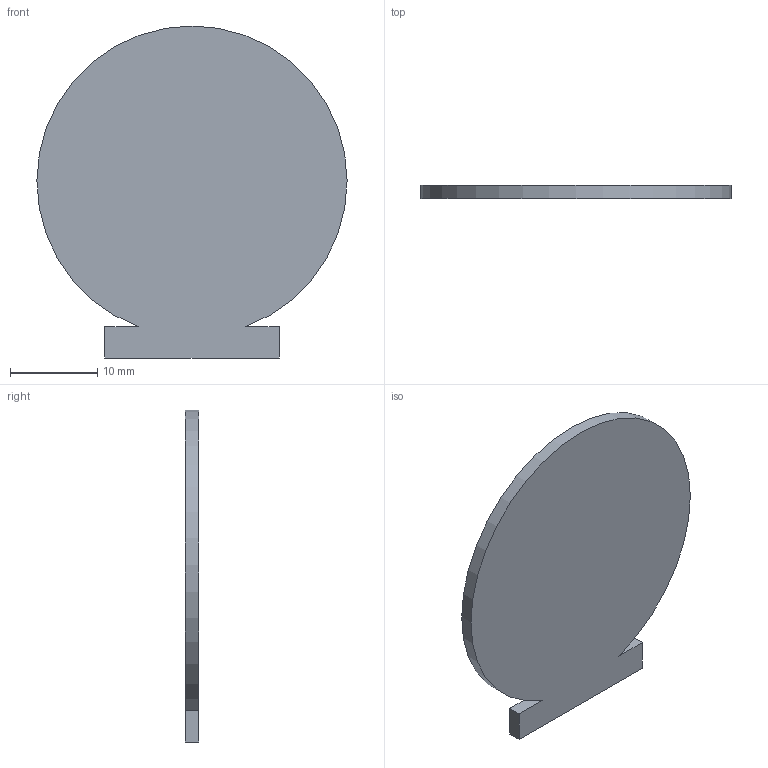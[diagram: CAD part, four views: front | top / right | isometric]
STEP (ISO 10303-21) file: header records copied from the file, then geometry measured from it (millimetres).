
FILE_DESCRIPTION(('Open CASCADE Model'),'2;1');
FILE_NAME('Open CASCADE Shape Model','2026-10-01T12:35:22',('Author'),( 'Open CASCADE'),'Open CASCADE STEP processor 7.8','Open CASCADE 7.8' ,'Unknown');
FILE_SCHEMA(('AUTOMOTIVE_DESIGN { 1 0 10303 214 1 1 1 1 }'));
Length unit declared in the file: millimetre
Products named in the file (2): E02_LCD_panel_reference; E02_LCD_panel_reference_solid
Assembly tree (1 placements, depth 2):
  E02_LCD_panel_reference
    E02_LCD_panel_reference_solid
Bounding box: 35.6 x 1.5 x 38.1 mm (x, y, z)
Volume: 1587.4 mm3; surface area: 2317.8 mm2
Topology: 1 solids, 1 shells, 8 faces, 18 edges, 12 vertices
Faces by surface type: plane 7, cylinder 1
Entity records: 494 total; most frequent: CARTESIAN_POINT 86, DIRECTION 71, LINE 46, VECTOR 46, ORIENTED_EDGE 36, PCURVE 36, DEFINITIONAL_REPRESENTATION 36, EDGE_CURVE 18
